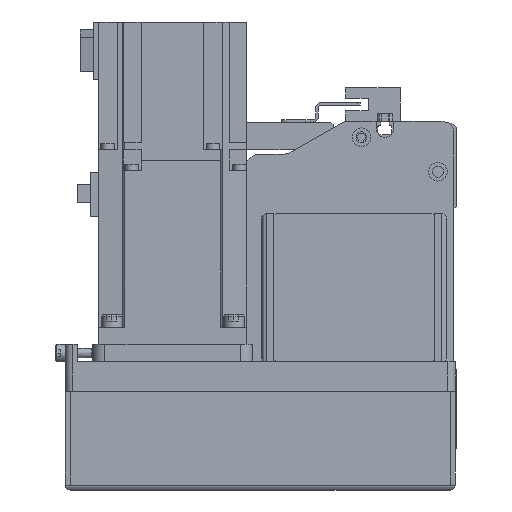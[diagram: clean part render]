
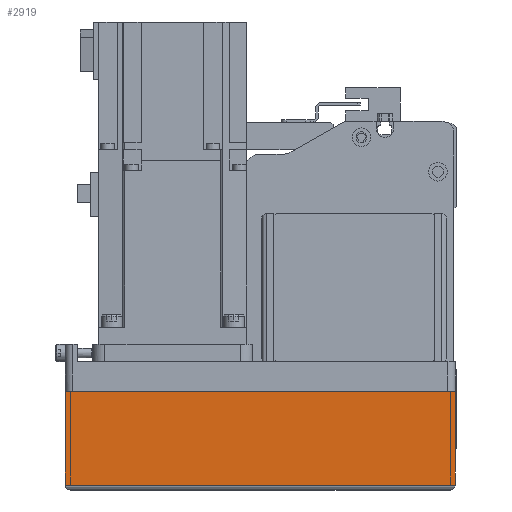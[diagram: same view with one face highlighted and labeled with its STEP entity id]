
A CAD part, left-side view. The second image highlights one B-rep face of the part: STEP entity #2919.
In plain terms, the highlighted planar face has unit normal (-1, 0, 0) as drawn and (0, -1, 0) by its records, which use the part's own axes.
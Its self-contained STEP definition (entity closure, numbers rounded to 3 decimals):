
#2919 = ADVANCED_FACE( '', ( #6148 ), #6149, .T. );
#6148 = FACE_OUTER_BOUND( '', #9528, .T. );
#6149 = PLANE( '', #9529 );
#9528 = EDGE_LOOP( '', ( #17788, #17789, #17790, #17791 ) );
#9529 = AXIS2_PLACEMENT_3D( '', #17792, #17793, #17794 );
#17788 = ORIENTED_EDGE( '', *, *, #21124, .F. );
#17789 = ORIENTED_EDGE( '', *, *, #21823, .F. );
#17790 = ORIENTED_EDGE( '', *, *, #22096, .T. );
#17791 = ORIENTED_EDGE( '', *, *, #22406, .T. );
#17792 = CARTESIAN_POINT( '', ( -158., -39., -12.1 ) );
#17793 = DIRECTION( '', ( 0., -1., 0. ) );
#17794 = DIRECTION( '', ( 0., 0., -1. ) );
#21124 = EDGE_CURVE( '', #24373, #25221, #25974, .T. );
#21823 = EDGE_CURVE( '', #25046, #24373, #26947, .T. );
#22096 = EDGE_CURVE( '', #25046, #26103, #27287, .T. );
#22406 = EDGE_CURVE( '', #26103, #25221, #27648, .T. );
#24373 = VERTEX_POINT( '', #30336 );
#25046 = VERTEX_POINT( '', #31283 );
#25221 = VERTEX_POINT( '', #31527 );
#25974 = LINE( '', #32813, #32814 );
#26103 = VERTEX_POINT( '', #33007 );
#26947 = LINE( '', #34373, #34374 );
#27287 = LINE( '', #34898, #34899 );
#27648 = LINE( '', #35434, #35435 );
#30336 = CARTESIAN_POINT( '', ( 0., -39., -12.1 ) );
#31283 = CARTESIAN_POINT( '', ( -158., -39., -12.1 ) );
#31527 = CARTESIAN_POINT( '', ( 0., -39., -50. ) );
#32813 = CARTESIAN_POINT( '', ( 0., -39., -12.1 ) );
#32814 = VECTOR( '', #38335, 1000. );
#33007 = CARTESIAN_POINT( '', ( -158., -39., -50. ) );
#34373 = CARTESIAN_POINT( '', ( -158., -39., -12.1 ) );
#34374 = VECTOR( '', #39104, 1000. );
#34898 = CARTESIAN_POINT( '', ( -158., -39., -12.1 ) );
#34899 = VECTOR( '', #39412, 1000. );
#35434 = CARTESIAN_POINT( '', ( -158., -39., -50. ) );
#35435 = VECTOR( '', #39667, 1000. );
#38335 = DIRECTION( '', ( 0., 0., -1. ) );
#39104 = DIRECTION( '', ( 1., 0., 0. ) );
#39412 = DIRECTION( '', ( 0., 0., -1. ) );
#39667 = DIRECTION( '', ( 1., 0., 0. ) );
